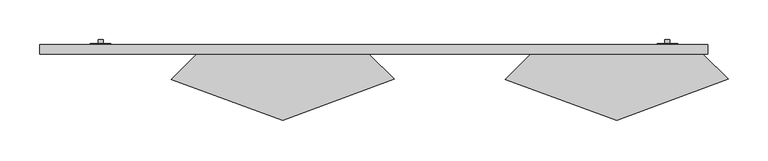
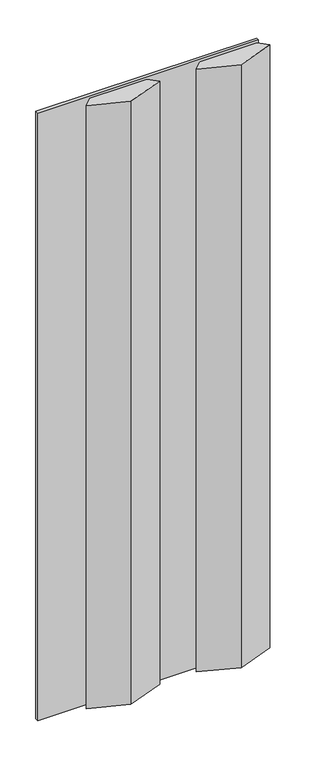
"""IFC4 building model written with IfcOpenShell, lengths in millimetres: proxy geometry, Arktura-SoundForm-Peak-RFA : Arktura-SoundForm-Peak-RFA."""

import ifcopenshell
import ifcopenshell.guid

model = None  # the IFC model being written
_history = None  # IfcOwnerHistory: only IFC2X3 demands one
_inside = {}  # id of a spatial element -> (the spatial element, [elements in it])
_under = {}  # id of a project, library or spatial element -> (it, [spatial elements below it])
_declared = {}  # id of a project -> (the project, [libraries it declares])
_typed = {}  # id of a type object -> (the type object, [elements of that type])
_made_of = {}  # id of a material, layer set ... -> (it, [elements and type objects made of it])


def new_model(schema):
    """Start an empty IFC model of exactly this schema.

    Asked for "IFC4X3", IfcOpenShell would pick the latest addendum, in which some entities
    have other attributes; the version numbers below select the first issue.
    IFC2X3 requires an IfcOwnerHistory on every rooted entity: one is made here for all.
    """
    global model, _history
    if schema == "IFC4X3":
        model = ifcopenshell.file(schema_version=(4, 3, 0, 0))
    else:
        model = ifcopenshell.file(schema=schema)
    _inside.clear()
    _under.clear()
    _declared.clear()
    _typed.clear()
    _made_of.clear()
    _history = None
    if model.schema == "IFC2X3":
        org = make("IfcOrganization", Name="unknown")
        user = make(
            "IfcPersonAndOrganization",
            ThePerson=make("IfcPerson", FamilyName="unknown"),
            TheOrganization=org,
        )
        app = make(
            "IfcApplication",
            ApplicationDeveloper=org,
            Version="unknown",
            ApplicationFullName="unknown",
            ApplicationIdentifier="unknown",
        )
        _history = make(
            "IfcOwnerHistory",
            OwningUser=user,
            OwningApplication=app,
            ChangeAction="ADDED",
            CreationDate=0,
        )
    return model


def make(cls, **values):
    """One entity of the class cls with the attributes given. An attribute that is None is left unset."""
    return model.create_entity(
        cls, **{name: value for name, value in values.items() if value is not None}
    )


def rooted(cls, **values):
    """An entity with a GlobalId (a new one), such as an element, a storey or a relation."""
    return make(cls, GlobalId=ifcopenshell.guid.new(), OwnerHistory=_history, **values)


def si_unit(unit_type, name, prefix=None):
    """IfcSIUnit, for example si_unit("LENGTHUNIT", "METRE", prefix="MILLI")."""
    return make("IfcSIUnit", UnitType=unit_type, Prefix=prefix, Name=name)


def assignment(units):
    """IfcUnitAssignment: the units of a project."""
    return None if units is None else make("IfcUnitAssignment", Units=units)


def point(xyz):
    """IfcCartesianPoint."""
    return None if xyz is None else make("IfcCartesianPoint", Coordinates=xyz)


def direction(xyz):
    """IfcDirection."""
    return None if xyz is None else make("IfcDirection", DirectionRatios=xyz)


def frame(location, z_axis=None, x_axis=None):
    """IfcAxis2Placement3D, a coordinate frame: its origin and axes. An axis left out is left unset."""
    return make(
        "IfcAxis2Placement3D",
        Location=point(location),
        Axis=direction(z_axis),
        RefDirection=direction(x_axis),
    )


def frame_2d(location, x_axis=None):
    """IfcAxis2Placement2D, a coordinate frame in the plane: its origin and x axis."""
    return make(
        "IfcAxis2Placement2D", Location=point(location), RefDirection=direction(x_axis)
    )


def origin():
    """The frame at (0, 0, 0) with its axes left unset."""
    return frame((0.0, 0.0, 0.0))


def origin_with_axes():
    """The frame at (0, 0, 0) with the z axis (0, 0, 1) and the x axis (1, 0, 0) written out."""
    return frame((0.0, 0.0, 0.0), z_axis=(0.0, 0.0, 1.0), x_axis=(1.0, 0.0, 0.0))


def place(relative_to, where):
    """IfcLocalPlacement: puts the frame where relative to a parent placement (None: the world)."""
    return make(
        "IfcLocalPlacement", PlacementRelTo=relative_to, RelativePlacement=where
    )


def context(
    kind, dimensions, precision=None, world=None, true_north=None, identifier=None
):
    """IfcGeometricRepresentationContext, for example the 3D "Model" context."""
    return make(
        "IfcGeometricRepresentationContext",
        ContextIdentifier=identifier,
        ContextType=kind,
        CoordinateSpaceDimension=dimensions,
        Precision=precision,
        WorldCoordinateSystem=world,
        TrueNorth=true_north,
    )


def project(units=None, contexts=None):
    """IfcProject with its units and contexts."""
    return rooted(
        "IfcProject",
        Name="project",
        RepresentationContexts=contexts,
        UnitsInContext=assignment(units),
    )


def spatial(cls, under=None, at=None, **own):
    """A site, building, storey or space (cls), placed at a placement, below another one or the project."""
    s = rooted(cls, ObjectPlacement=at, **own)
    if under is not None:
        _under.setdefault(under.id(), (under, []))[1].append(s)
    return s


def polyline(points):
    """IfcPolyline through the points."""
    return make("IfcPolyline", Points=[point(p) for p in points])


def circle_curve(where, radius):
    """IfcCircle in the frame where."""
    return make("IfcCircle", Position=where, Radius=radius)


def trimmed(basis, trim1, trim2, sense, master):
    """IfcTrimmedCurve: the piece of a basis curve between two trims."""
    return make(
        "IfcTrimmedCurve",
        BasisCurve=basis,
        Trim1=trim1,
        Trim2=trim2,
        SenseAgreement=sense,
        MasterRepresentation=master,
    )


def segment(curve, same_sense, transition):
    """IfcCompositeCurveSegment."""
    return make(
        "IfcCompositeCurveSegment",
        Transition=transition,
        SameSense=same_sense,
        ParentCurve=curve,
    )


def composite_curve(segments, self_intersect=None):
    """IfcCompositeCurve: segments joined end to end."""
    return make("IfcCompositeCurve", Segments=segments, SelfIntersect=self_intersect)


def outline(outer, holes=None, kind="AREA"):
    """IfcArbitraryClosedProfileDef: a profile drawn as a closed curve; with holes, ...WithVoids."""
    if holes is None:
        return make("IfcArbitraryClosedProfileDef", ProfileType=kind, OuterCurve=outer)
    return make(
        "IfcArbitraryProfileDefWithVoids",
        ProfileType=kind,
        OuterCurve=outer,
        InnerCurves=holes,
    )


def extrude(swept, where, along, depth):
    """IfcExtrudedAreaSolid: the profile swept, set in the frame where, extruded along a direction by depth."""
    return make(
        "IfcExtrudedAreaSolid",
        SweptArea=swept,
        Position=where,
        ExtrudedDirection=direction(along),
        Depth=depth,
    )


def shape(context_of_items, identifier, shape_type, items):
    """IfcShapeRepresentation: the items that make up one representation, for example the "Body"."""
    return make(
        "IfcShapeRepresentation",
        ContextOfItems=context_of_items,
        RepresentationIdentifier=identifier,
        RepresentationType=shape_type,
        Items=items,
    )


def source(mapping_origin, context_of_items, identifier, shape_type, items):
    """IfcRepresentationMap: a shape defined once, which mapped items show again and again."""
    return make(
        "IfcRepresentationMap",
        MappingOrigin=mapping_origin,
        MappedRepresentation=shape(context_of_items, identifier, shape_type, items),
    )


def transform(
    local_origin,
    x_axis=None,
    y_axis=None,
    z_axis=None,
    scale=None,
    scale2=None,
    scale3=None,
    uniform=True,
):
    """IfcCartesianTransformationOperator3D, or its non-uniform kind. x_axis, y_axis, z_axis: its Axis1, 2, 3."""
    if uniform:
        return make(
            "IfcCartesianTransformationOperator3D",
            Axis1=direction(x_axis),
            Axis2=direction(y_axis),
            LocalOrigin=point(local_origin),
            Scale=scale,
            Axis3=direction(z_axis),
        )
    return make(
        "IfcCartesianTransformationOperator3DnonUniform",
        Axis1=direction(x_axis),
        Axis2=direction(y_axis),
        LocalOrigin=point(local_origin),
        Scale=scale,
        Axis3=direction(z_axis),
        Scale2=scale2,
        Scale3=scale3,
    )


def mapped(mapping_source, mapping_target):
    """IfcMappedItem: shows the shape of a source again, moved by a transform."""
    return make(
        "IfcMappedItem", MappingSource=mapping_source, MappingTarget=mapping_target
    )


def made_of(thing, what):
    """Note that an element or type object is made of a material, layer set ...; save() writes the relation."""
    if what is not None:
        _made_of.setdefault(what.id(), (what, []))[1].append(thing)
    return thing


def element(
    cls,
    number,
    at=None,
    inside=None,
    cuts=None,
    type_object=None,
    material=None,
    context=None,
    identifier="Body",
    shape_type=None,
    held_by="IfcProductDefinitionShape",
    body=None,
    shapes=None,
    **own,
):
    """One element of the class cls, such as IfcWall. Its Tag is "e" and its number.

    at: its placement. inside: the storey or other place that contains it. cuts: it is an
    opening in that element (IfcRelVoidsElement). A single representation is given by context,
    identifier, shape_type and body (its items); several are given by shapes. held_by: the class
    of the entity that holds the representations. save() writes the other relations.
    """
    e = rooted(cls, Tag="e%d" % number, ObjectPlacement=at, **own)
    if body is not None:
        shapes = [shape(context, identifier, shape_type, body)]
    if shapes is not None:
        e.Representation = make(held_by, Representations=shapes)
    if inside is not None:
        _inside.setdefault(inside.id(), (inside, []))[1].append(e)
    if cuts is not None:
        rooted(
            "IfcRelVoidsElement", RelatingBuildingElement=cuts, RelatedOpeningElement=e
        )
    if type_object is not None:
        _typed.setdefault(type_object.id(), (type_object, []))[1].append(e)
    return made_of(e, material)


def aggregate(whole, parts):
    """IfcRelAggregates: a whole, such as a stair, and the parts it consists of."""
    return rooted("IfcRelAggregates", RelatingObject=whole, RelatedObjects=parts)


def save(model, path):
    """Write the relations noted so far, then the file.

    IfcRelAggregates (storeys below a building ...), IfcRelContainedInSpatialStructure (elements
    in a storey), IfcRelDefinesByType, IfcRelAssociatesMaterial and IfcRelDeclares: one each for
    every whole, place, type object, material and project.
    """
    for whole, parts in _under.values():
        aggregate(whole, parts)
    for where, things in _inside.values():
        rooted(
            "IfcRelContainedInSpatialStructure",
            RelatedElements=things,
            RelatingStructure=where,
        )
    for kind, things in _typed.values():
        rooted("IfcRelDefinesByType", RelatedObjects=things, RelatingType=kind)
    for what, things in _made_of.values():
        rooted("IfcRelAssociatesMaterial", RelatedObjects=things, RelatingMaterial=what)
    for by, libraries in _declared.values():
        rooted("IfcRelDeclares", RelatingContext=by, RelatedDefinitions=libraries)
    model.write(path)


def generic_models_cfb101af(model_context):
    return source(origin(), model_context, "Body", "SweptSolid", [
        extrude(outline(polyline([(558.8, -31.75), (533.4, -31.75), (533.4, -30.3215536), (558.8, -30.3215536), (558.8, -31.75)])), frame((0.0, 0.0, 1206.5), z_axis=(0.0, 0.0, 1.0), x_axis=(1.0, 0.0, 0.0)), (0.0, 0.0, 1.0), 25.4),
        extrude(outline(composite_curve([segment(trimmed(circle_curve(frame_2d((1219.2, 546.1)), 3.175), [point((1219.2, 542.925))], [point((1219.2, 549.275))], False, "CARTESIAN"), True, "CONTINUOUS"), segment(trimmed(circle_curve(frame_2d((1219.2, 546.1)), 3.175), [point((1219.2, 549.275))], [point((1219.2, 542.925))], False, "CARTESIAN"), True, "CONTINUOUS")], self_intersect=False)), frame((0.0, -30.3215536, 0.0), z_axis=(0.0, 1.0, 0.0), x_axis=(0.0, 0.0, 1.0)), (0.0, 0.0, 1.0), 4.9215536),
        extrude(outline(polyline([(-152.4, -31.75), (-177.8, -31.75), (-177.8, -30.3215536), (-152.4, -30.3215536), (-152.4, -31.75)])), frame((0.0, 0.0, 1206.5), z_axis=(0.0, 0.0, 1.0), x_axis=(1.0, 0.0, 0.0)), (0.0, 0.0, 1.0), 25.4),
        extrude(outline(composite_curve([segment(trimmed(circle_curve(frame_2d((1219.2, -165.1)), 3.175), [point((1219.2, -168.275))], [point((1219.2, -161.925))], False, "CARTESIAN"), True, "CONTINUOUS"), segment(trimmed(circle_curve(frame_2d((1219.2, -165.1)), 3.175), [point((1219.2, -161.925))], [point((1219.2, -168.275))], False, "CARTESIAN"), True, "CONTINUOUS")], self_intersect=False)), frame((0.0, -30.3215536, 0.0), z_axis=(0.0, 1.0, 0.0), x_axis=(0.0, 0.0, 1.0)), (0.0, 0.0, 1.0), 4.9215536),
        extrude(outline(polyline([(558.8, -31.75), (533.4, -31.75), (533.4, -30.3215536), (558.8, -30.3215536), (558.8, -31.75)])), frame((0.0, 0.0, 2352.675), z_axis=(0.0, 0.0, 1.0), x_axis=(1.0, 0.0, 0.0)), (0.0, 0.0, 1.0), 25.4),
        extrude(outline(composite_curve([segment(trimmed(circle_curve(frame_2d((2365.375, 546.1)), 3.175), [point((2365.375, 542.925))], [point((2365.375, 549.275))], False, "CARTESIAN"), True, "CONTINUOUS"), segment(trimmed(circle_curve(frame_2d((2365.375, 546.1)), 3.175), [point((2365.375, 549.275))], [point((2365.375, 542.925))], False, "CARTESIAN"), True, "CONTINUOUS")], self_intersect=False)), frame((0.0, -30.3215536, 0.0), z_axis=(0.0, 1.0, 0.0), x_axis=(0.0, 0.0, 1.0)), (0.0, 0.0, 1.0), 4.9215536),
        extrude(outline(polyline([(-152.4, -31.75), (-177.8, -31.75), (-177.8, -30.3215536), (-152.4, -30.3215536), (-152.4, -31.75)])), frame((0.0, 0.0, 2352.675), z_axis=(0.0, 0.0, 1.0), x_axis=(1.0, 0.0, 0.0)), (0.0, 0.0, 1.0), 25.4),
        extrude(outline(composite_curve([segment(trimmed(circle_curve(frame_2d((2365.375, -165.1)), 3.175), [point((2365.375, -168.275))], [point((2365.375, -161.925))], False, "CARTESIAN"), True, "CONTINUOUS"), segment(trimmed(circle_curve(frame_2d((2365.375, -165.1)), 3.175), [point((2365.375, -161.925))], [point((2365.375, -168.275))], False, "CARTESIAN"), True, "CONTINUOUS")], self_intersect=False)), frame((0.0, -30.3215536, 0.0), z_axis=(0.0, 1.0, 0.0), x_axis=(0.0, 0.0, 1.0)), (0.0, 0.0, 1.0), 4.9215536),
        extrude(outline(polyline([(558.8, -31.75), (533.4, -31.75), (533.4, -30.3215536), (558.8, -30.3215536), (558.8, -31.75)])), frame((0.0, 0.0, 60.325), z_axis=(0.0, 0.0, 1.0), x_axis=(1.0, 0.0, 0.0)), (0.0, 0.0, 1.0), 25.4),
        extrude(outline(composite_curve([segment(trimmed(circle_curve(frame_2d((73.025, 546.1)), 3.175), [point((73.025, 542.925))], [point((73.025, 549.275))], False, "CARTESIAN"), True, "CONTINUOUS"), segment(trimmed(circle_curve(frame_2d((73.025, 546.1)), 3.175), [point((73.025, 549.275))], [point((73.025, 542.925))], False, "CARTESIAN"), True, "CONTINUOUS")], self_intersect=False)), frame((0.0, -30.3215536, 0.0), z_axis=(0.0, 1.0, 0.0), x_axis=(0.0, 0.0, 1.0)), (0.0, 0.0, 1.0), 4.9215536),
        extrude(outline(polyline([(-152.4, -31.75), (-177.8, -31.75), (-177.8, -30.3215536), (-152.4, -30.3215536), (-152.4, -31.75)])), frame((0.0, 0.0, 60.325), z_axis=(0.0, 0.0, 1.0), x_axis=(1.0, 0.0, 0.0)), (0.0, 0.0, 1.0), 25.4),
        extrude(outline(composite_curve([segment(trimmed(circle_curve(frame_2d((73.025, -165.1)), 3.175), [point((73.025, -168.275))], [point((73.025, -161.925))], False, "CARTESIAN"), True, "CONTINUOUS"), segment(trimmed(circle_curve(frame_2d((73.025, -165.1)), 3.175), [point((73.025, -161.925))], [point((73.025, -168.275))], False, "CARTESIAN"), True, "CONTINUOUS")], self_intersect=False)), frame((0.0, -30.3215536, 0.0), z_axis=(0.0, 1.0, 0.0), x_axis=(0.0, 0.0, 1.0)), (0.0, 0.0, 1.0), 4.9215536),
        extrude(outline(polyline([(-241.3, -43.749976), (-241.3, -31.75), (596.9, -31.75), (596.9, -43.749976), (-241.3, -43.749976)])), origin_with_axes(), (0.0, 0.0, 1.0), 2438.4),
        extrude(outline(polyline([(425.45, -43.7499999), (590.5500179, -43.7499999), (622.3, -74.9283805), (482.6, -127.0), (342.9, -75.499982), (374.6499821, -43.7499999), (425.45, -43.7499999)])), frame((0.0, 0.0, 9.525), z_axis=(0.0, 0.0, 1.0), x_axis=(1.0, 0.0, 0.0)), (0.0, 0.0, 1.0), 2419.35),
        extrude(outline(polyline([(6.35, -43.7499999), (171.4500179, -43.7499999), (203.2, -74.9283805), (63.5, -127.0), (-76.2, -75.499982), (-44.4500179, -43.7499999), (6.35, -43.7499999)])), frame((0.0, 0.0, 9.525), z_axis=(0.0, 0.0, 1.0), x_axis=(1.0, 0.0, 0.0)), (0.0, 0.0, 1.0), 2419.35),
    ])


if __name__ == "__main__":
    model = new_model("IFC4")
    model_context = context("Model", 3, world=origin())
    ifc_project = project(units=[si_unit("LENGTHUNIT", "METRE", prefix="MILLI")], contexts=[model_context])
    site = spatial("IfcSite", under=ifc_project)
    building = spatial("IfcBuilding", under=site)
    placement = place(None, origin())
    generic_models_shape = generic_models_cfb101af(model_context)
    element("IfcBuildingElementProxy", 1, Name="Arktura-SoundForm-Peak-RFA : Arktura-SoundForm-Peak-RFA", ObjectType="Arktura-SoundForm-Peak-RFA : Arktura-SoundForm-Peak-RFA", at=placement, inside=building, context=model_context, shape_type="MappedRepresentation", body=[
        mapped(generic_models_shape, transform((0.0, 0.0, 0.0), x_axis=(1.0, 0.0, 0.0), y_axis=(0.0, 1.0, 0.0), z_axis=(0.0, 0.0, 1.0))),
    ])
    save(model, "model.ifc")
